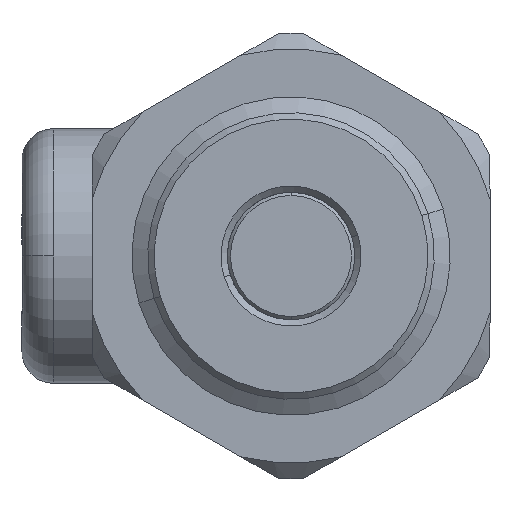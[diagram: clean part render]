
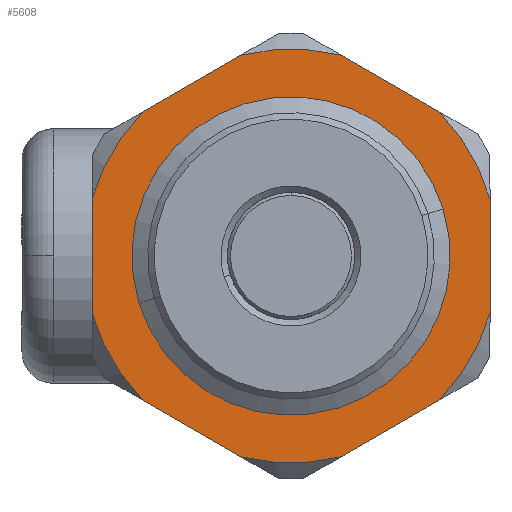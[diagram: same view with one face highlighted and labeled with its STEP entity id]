
A CAD part, front view. The second image highlights one B-rep face of the part: STEP entity #5608.
In plain terms, the highlighted planar face has unit normal (0, -1, 0).
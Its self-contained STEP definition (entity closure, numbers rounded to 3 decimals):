
#87 = CARTESIAN_POINT ( 'NONE',  ( 1.785, 0., -6.25 ) ) ;
#185 = EDGE_CURVE ( 'NONE', #2441, #19053, #15831, .T. ) ;
#236 = VERTEX_POINT ( 'NONE', #16017 ) ;
#302 = DIRECTION ( 'NONE',  ( -1., 0., 0. ) ) ;
#428 = VERTEX_POINT ( 'NONE', #14521 ) ;
#455 = EDGE_CURVE ( 'NONE', #236, #3868, #7971, .T. ) ;
#523 = EDGE_CURVE ( 'NONE', #8084, #236, #1174, .T. ) ;
#540 = DIRECTION ( 'NONE',  ( 0., 0., 1. ) ) ;
#1082 = EDGE_CURVE ( 'NONE', #11100, #9094, #9948, .T. ) ;
#1174 = CIRCLE ( 'NONE', #5824, 6.5 ) ;
#1320 = AXIS2_PLACEMENT_3D ( 'NONE', #17913, #1660, #15065 ) ;
#1383 = CARTESIAN_POINT ( 'NONE',  ( -7.149, 0., -0.117 ) ) ;
#1591 = EDGE_CURVE ( 'NONE', #7628, #4808, #12782, .T. ) ;
#1627 = FACE_BOUND ( 'NONE', #11973, .T. ) ;
#1660 = DIRECTION ( 'NONE',  ( 0., -1., 0. ) ) ;
#1952 = EDGE_CURVE ( 'NONE', #19053, #4554, #16332, .T. ) ;
#2340 = CARTESIAN_POINT ( 'NONE',  ( 0., 0., -4.5 ) ) ;
#2399 = ORIENTED_EDGE ( 'NONE', *, *, #1952, .T. ) ;
#2441 = VERTEX_POINT ( 'NONE', #8770 ) ;
#2704 = EDGE_CURVE ( 'NONE', #3868, #11100, #14864, .T. ) ;
#2705 = DIRECTION ( 'NONE',  ( 0., 1., 0. ) ) ;
#2754 = VECTOR ( 'NONE', #5606, 1000. ) ;
#2894 = DIRECTION ( 'NONE',  ( 0., 0., 1. ) ) ;
#2904 = DIRECTION ( 'NONE',  ( 0., 0., 1. ) ) ;
#3064 = DIRECTION ( 'NONE',  ( 0., 0., 1. ) ) ;
#3246 = CARTESIAN_POINT ( 'NONE',  ( 3.473, 0., 6.25 ) ) ;
#3432 = CARTESIAN_POINT ( 'NONE',  ( 0., 0., 0. ) ) ;
#3671 = CARTESIAN_POINT ( 'NONE',  ( 0., 0., 0. ) ) ;
#3777 = ORIENTED_EDGE ( 'NONE', *, *, #17282, .T. ) ;
#3868 = VERTEX_POINT ( 'NONE', #5526 ) ;
#4102 = ORIENTED_EDGE ( 'NONE', *, *, #185, .T. ) ;
#4408 = CARTESIAN_POINT ( 'NONE',  ( 0., 0., 0. ) ) ;
#4511 = DIRECTION ( 'NONE',  ( 0., 0., 1. ) ) ;
#4554 = VERTEX_POINT ( 'NONE', #18108 ) ;
#4718 = ORIENTED_EDGE ( 'NONE', *, *, #1591, .T. ) ;
#4808 = VERTEX_POINT ( 'NONE', #2340 ) ;
#5071 = EDGE_LOOP ( 'NONE', ( #2399, #6609, #8745, #13840, #7241, #6181, #18424, #3777, #17459, #14923, #17238, #4102 ) ) ;
#5189 = AXIS2_PLACEMENT_3D ( 'NONE', #3671, #12588, #540 ) ;
#5264 = VERTEX_POINT ( 'NONE', #15629 ) ;
#5498 = DIRECTION ( 'NONE',  ( 0., -1., 0. ) ) ;
#5526 = CARTESIAN_POINT ( 'NONE',  ( 6.305, 0., -1.579 ) ) ;
#5606 = DIRECTION ( 'NONE',  ( -0.5, 0., 0.866 ) ) ;
#5608 = ADVANCED_FACE ( 'NONE', ( #9057, #1627 ), #9340, .F. ) ;
#5620 = CARTESIAN_POINT ( 'NONE',  ( 4.52, 0., 4.671 ) ) ;
#5824 = AXIS2_PLACEMENT_3D ( 'NONE', #17351, #9916, #14417 ) ;
#6181 = ORIENTED_EDGE ( 'NONE', *, *, #2704, .T. ) ;
#6442 = VECTOR ( 'NONE', #13151, 1000. ) ;
#6609 = ORIENTED_EDGE ( 'NONE', *, *, #13848, .T. ) ;
#6706 = AXIS2_PLACEMENT_3D ( 'NONE', #11824, #16297, #2904 ) ;
#6966 = CARTESIAN_POINT ( 'NONE',  ( 0., 0., 0. ) ) ;
#7230 = CIRCLE ( 'NONE', #1320, 6.5 ) ;
#7241 = ORIENTED_EDGE ( 'NONE', *, *, #455, .T. ) ;
#7608 = DIRECTION ( 'NONE',  ( 0.5, 0., -0.866 ) ) ;
#7628 = VERTEX_POINT ( 'NONE', #10958 ) ;
#7971 = LINE ( 'NONE', #17541, #6442 ) ;
#8084 = VERTEX_POINT ( 'NONE', #87 ) ;
#8685 = DIRECTION ( 'NONE',  ( 0., 0., 1. ) ) ;
#8745 = ORIENTED_EDGE ( 'NONE', *, *, #18212, .T. ) ;
#8770 = CARTESIAN_POINT ( 'NONE',  ( -6.305, 0., 1.579 ) ) ;
#9057 = FACE_OUTER_BOUND ( 'NONE', #5071, .T. ) ;
#9094 = VERTEX_POINT ( 'NONE', #5620 ) ;
#9308 = LINE ( 'NONE', #3246, #15512 ) ;
#9340 = PLANE ( 'NONE',  #5189 ) ;
#9533 = CARTESIAN_POINT ( 'NONE',  ( 6.305, 0., 1.579 ) ) ;
#9916 = DIRECTION ( 'NONE',  ( 0., -1., 0. ) ) ;
#9948 = LINE ( 'NONE', #13096, #2754 ) ;
#10177 = CIRCLE ( 'NONE', #6706, 6.5 ) ;
#10224 = DIRECTION ( 'NONE',  ( 0., 0., 1. ) ) ;
#10837 = AXIS2_PLACEMENT_3D ( 'NONE', #11623, #17696, #8685 ) ;
#10926 = DIRECTION ( 'NONE',  ( 1., 0., 0. ) ) ;
#10958 = CARTESIAN_POINT ( 'NONE',  ( 0., 0., 4.5 ) ) ;
#11100 = VERTEX_POINT ( 'NONE', #9533 ) ;
#11300 = LINE ( 'NONE', #11396, #15747 ) ;
#11316 = EDGE_CURVE ( 'NONE', #17470, #5264, #9308, .T. ) ;
#11396 = CARTESIAN_POINT ( 'NONE',  ( -3.676, 0., 6.133 ) ) ;
#11623 = CARTESIAN_POINT ( 'NONE',  ( 0., 0., 0. ) ) ;
#11665 = CIRCLE ( 'NONE', #16659, 4.5 ) ;
#11824 = CARTESIAN_POINT ( 'NONE',  ( 0., 0., 0. ) ) ;
#11973 = EDGE_LOOP ( 'NONE', ( #4718, #12220 ) ) ;
#12037 = EDGE_CURVE ( 'NONE', #4808, #7628, #11665, .T. ) ;
#12220 = ORIENTED_EDGE ( 'NONE', *, *, #12037, .T. ) ;
#12588 = DIRECTION ( 'NONE',  ( 0., 1., 0. ) ) ;
#12689 = DIRECTION ( 'NONE',  ( -0.5, 0., -0.866 ) ) ;
#12782 = CIRCLE ( 'NONE', #15262, 4.5 ) ;
#12843 = EDGE_CURVE ( 'NONE', #18399, #2441, #11300, .T. ) ;
#13096 = CARTESIAN_POINT ( 'NONE',  ( 7.149, 0., 0.117 ) ) ;
#13151 = DIRECTION ( 'NONE',  ( 0.5, 0., 0.866 ) ) ;
#13311 = CARTESIAN_POINT ( 'NONE',  ( -6.305, 0., -1.579 ) ) ;
#13381 = VECTOR ( 'NONE', #7608, 1000. ) ;
#13840 = ORIENTED_EDGE ( 'NONE', *, *, #523, .T. ) ;
#13848 = EDGE_CURVE ( 'NONE', #4554, #428, #10177, .T. ) ;
#14417 = DIRECTION ( 'NONE',  ( 0., 0., 1. ) ) ;
#14521 = CARTESIAN_POINT ( 'NONE',  ( -1.785, 0., -6.25 ) ) ;
#14864 = CIRCLE ( 'NONE', #17992, 6.5 ) ;
#14904 = DIRECTION ( 'NONE',  ( 0., 1., 0. ) ) ;
#14923 = ORIENTED_EDGE ( 'NONE', *, *, #17706, .T. ) ;
#15065 = DIRECTION ( 'NONE',  ( 0., 0., 1. ) ) ;
#15262 = AXIS2_PLACEMENT_3D ( 'NONE', #4408, #14904, #3064 ) ;
#15512 = VECTOR ( 'NONE', #302, 1000. ) ;
#15629 = CARTESIAN_POINT ( 'NONE',  ( -1.785, 0., 6.25 ) ) ;
#15747 = VECTOR ( 'NONE', #12689, 1000. ) ;
#15819 = CARTESIAN_POINT ( 'NONE',  ( -4.52, 0., 4.671 ) ) ;
#15831 = CIRCLE ( 'NONE', #10837, 6.5 ) ;
#16017 = CARTESIAN_POINT ( 'NONE',  ( 4.52, 0., -4.671 ) ) ;
#16289 = CARTESIAN_POINT ( 'NONE',  ( 0., 0., 0. ) ) ;
#16297 = DIRECTION ( 'NONE',  ( 0., -1., 0. ) ) ;
#16332 = LINE ( 'NONE', #1383, #13381 ) ;
#16605 = CARTESIAN_POINT ( 'NONE',  ( -3.473, 0., -6.25 ) ) ;
#16659 = AXIS2_PLACEMENT_3D ( 'NONE', #16289, #2705, #2894 ) ;
#17238 = ORIENTED_EDGE ( 'NONE', *, *, #12843, .T. ) ;
#17282 = EDGE_CURVE ( 'NONE', #9094, #17470, #18165, .T. ) ;
#17351 = CARTESIAN_POINT ( 'NONE',  ( 0., 0., 0. ) ) ;
#17459 = ORIENTED_EDGE ( 'NONE', *, *, #11316, .T. ) ;
#17470 = VERTEX_POINT ( 'NONE', #18711 ) ;
#17541 = CARTESIAN_POINT ( 'NONE',  ( 3.676, 0., -6.133 ) ) ;
#17696 = DIRECTION ( 'NONE',  ( 0., -1., 0. ) ) ;
#17706 = EDGE_CURVE ( 'NONE', #5264, #18399, #7230, .T. ) ;
#17913 = CARTESIAN_POINT ( 'NONE',  ( 0., 0., 0. ) ) ;
#17936 = DIRECTION ( 'NONE',  ( 0., -1., 0. ) ) ;
#17992 = AXIS2_PLACEMENT_3D ( 'NONE', #6966, #5498, #10224 ) ;
#18085 = LINE ( 'NONE', #16605, #18462 ) ;
#18108 = CARTESIAN_POINT ( 'NONE',  ( -4.52, 0., -4.671 ) ) ;
#18165 = CIRCLE ( 'NONE', #18805, 6.5 ) ;
#18212 = EDGE_CURVE ( 'NONE', #428, #8084, #18085, .T. ) ;
#18399 = VERTEX_POINT ( 'NONE', #15819 ) ;
#18424 = ORIENTED_EDGE ( 'NONE', *, *, #1082, .T. ) ;
#18462 = VECTOR ( 'NONE', #10926, 1000. ) ;
#18711 = CARTESIAN_POINT ( 'NONE',  ( 1.785, 0., 6.25 ) ) ;
#18805 = AXIS2_PLACEMENT_3D ( 'NONE', #3432, #17936, #4511 ) ;
#19053 = VERTEX_POINT ( 'NONE', #13311 ) ;
